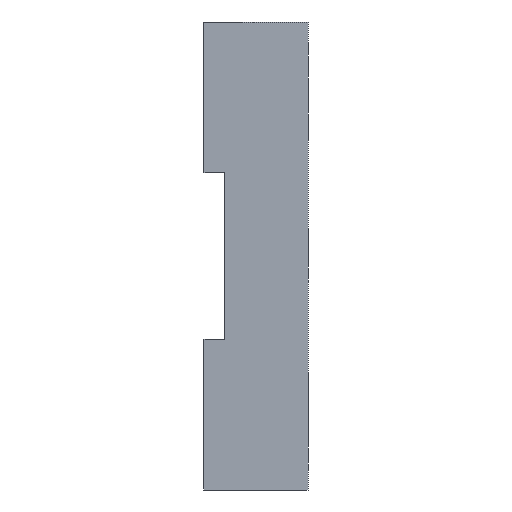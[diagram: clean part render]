
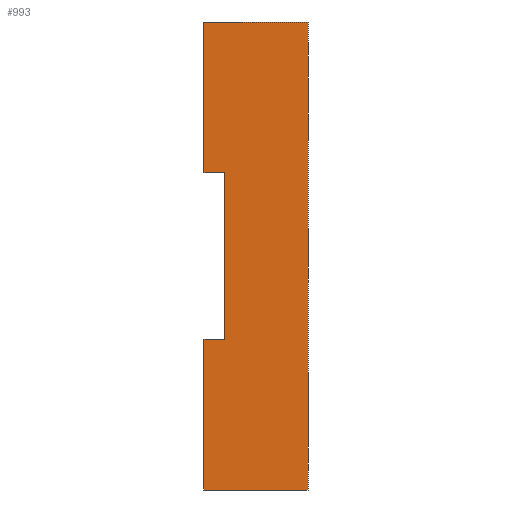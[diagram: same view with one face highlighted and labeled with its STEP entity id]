
A CAD part, left-side view. The second image highlights one B-rep face of the part: STEP entity #993.
In plain terms, the highlighted planar face has unit normal (-1, 0, 0).
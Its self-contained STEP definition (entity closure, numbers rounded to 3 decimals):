
#49 = AXIS2_PLACEMENT_3D ( 'NONE', #772, #777, #778 ) ;
#104 = LINE ( 'NONE', #1191, #105 ) ;
#105 = VECTOR ( 'NONE', #1192, 1000. ) ;
#180 = FACE_OUTER_BOUND ( 'NONE', #1337, .T. ) ;
#415 = VERTEX_POINT ( 'NONE', #1066 ) ;
#427 = EDGE_CURVE ( 'NONE', #854, #690, #1873, .T. ) ;
#432 = EDGE_CURVE ( 'NONE', #685, #690, #1885, .T. ) ;
#433 = EDGE_CURVE ( 'NONE', #859, #685, #1888, .T. ) ;
#434 = EDGE_CURVE ( 'NONE', #859, #1655, #1887, .T. ) ;
#435 = EDGE_CURVE ( 'NONE', #851, #415, #1892, .T. ) ;
#436 = EDGE_CURVE ( 'NONE', #852, #851, #1890, .T. ) ;
#437 = EDGE_CURVE ( 'NONE', #852, #854, #1894, .T. ) ;
#524 = EDGE_CURVE ( 'NONE', #415, #1655, #104, .T. ) ;
#685 = VERTEX_POINT ( 'NONE', #1217 ) ;
#690 = VERTEX_POINT ( 'NONE', #1228 ) ;
#711 = CARTESIAN_POINT ( 'NONE',  ( -32., 10., -8. ) ) ;
#712 = CARTESIAN_POINT ( 'NONE',  ( -32., 10., -22.5 ) ) ;
#713 = CARTESIAN_POINT ( 'NONE',  ( -32., 0., -22.5 ) ) ;
#717 = CARTESIAN_POINT ( 'NONE',  ( -32., 10., 8. ) ) ;
#772 = CARTESIAN_POINT ( 'NONE',  ( -32., 8., -22.5 ) ) ;
#774 = PLANE ( 'NONE',  #49 ) ;
#777 = DIRECTION ( 'NONE',  ( 1., 0., 0. ) ) ;
#778 = DIRECTION ( 'NONE',  ( 0., 0., -1. ) ) ;
#851 = VERTEX_POINT ( 'NONE', #711 ) ;
#852 = VERTEX_POINT ( 'NONE', #712 ) ;
#854 = VERTEX_POINT ( 'NONE', #713 ) ;
#859 = VERTEX_POINT ( 'NONE', #717 ) ;
#877 = CARTESIAN_POINT ( 'NONE',  ( -32., 8., 8. ) ) ;
#993 = ADVANCED_FACE ( 'NONE', ( #180 ), #774, .F. ) ;
#1066 = CARTESIAN_POINT ( 'NONE',  ( -32., 8., -8. ) ) ;
#1072 = DIRECTION ( 'NONE',  ( 0., 0., 1. ) ) ;
#1089 = CARTESIAN_POINT ( 'NONE',  ( -32., 0., -22.5 ) ) ;
#1097 = DIRECTION ( 'NONE',  ( 0., -1., 0. ) ) ;
#1098 = CARTESIAN_POINT ( 'NONE',  ( -32., 10., -22.5 ) ) ;
#1099 = CARTESIAN_POINT ( 'NONE',  ( -32., 10., 8. ) ) ;
#1100 = CARTESIAN_POINT ( 'NONE',  ( -32., 8., 22.5 ) ) ;
#1104 = CARTESIAN_POINT ( 'NONE',  ( -32., 10., 22.5 ) ) ;
#1105 = CARTESIAN_POINT ( 'NONE',  ( -32., 8., -22.5 ) ) ;
#1106 = DIRECTION ( 'NONE',  ( 0., 0., 1. ) ) ;
#1107 = DIRECTION ( 'NONE',  ( 0., -1., 0. ) ) ;
#1108 = CARTESIAN_POINT ( 'NONE',  ( -32., 10., -8. ) ) ;
#1110 = DIRECTION ( 'NONE',  ( 0., -1., 0. ) ) ;
#1111 = DIRECTION ( 'NONE',  ( 0., 0., 1. ) ) ;
#1113 = DIRECTION ( 'NONE',  ( 0., -1., 0. ) ) ;
#1191 = CARTESIAN_POINT ( 'NONE',  ( -32., 8., -22.5 ) ) ;
#1192 = DIRECTION ( 'NONE',  ( 0., 0., 1. ) ) ;
#1217 = CARTESIAN_POINT ( 'NONE',  ( -32., 10., 22.5 ) ) ;
#1228 = CARTESIAN_POINT ( 'NONE',  ( -32., 0., 22.5 ) ) ;
#1337 = EDGE_LOOP ( 'NONE', ( #1535, #1366, #1514, #1773, #1756, #1379, #1493, #1430 ) ) ;
#1366 = ORIENTED_EDGE ( 'NONE', *, *, #432, .F. ) ;
#1379 = ORIENTED_EDGE ( 'NONE', *, *, #435, .F. ) ;
#1430 = ORIENTED_EDGE ( 'NONE', *, *, #437, .T. ) ;
#1493 = ORIENTED_EDGE ( 'NONE', *, *, #436, .F. ) ;
#1514 = ORIENTED_EDGE ( 'NONE', *, *, #433, .F. ) ;
#1535 = ORIENTED_EDGE ( 'NONE', *, *, #427, .T. ) ;
#1655 = VERTEX_POINT ( 'NONE', #877 ) ;
#1756 = ORIENTED_EDGE ( 'NONE', *, *, #524, .F. ) ;
#1773 = ORIENTED_EDGE ( 'NONE', *, *, #434, .T. ) ;
#1873 = LINE ( 'NONE', #1089, #1880 ) ;
#1880 = VECTOR ( 'NONE', #1072, 1000. ) ;
#1885 = LINE ( 'NONE', #1100, #1889 ) ;
#1887 = LINE ( 'NONE', #1099, #1893 ) ;
#1888 = LINE ( 'NONE', #1104, #1891 ) ;
#1889 = VECTOR ( 'NONE', #1097, 1000. ) ;
#1890 = LINE ( 'NONE', #1098, #1897 ) ;
#1891 = VECTOR ( 'NONE', #1106, 1000. ) ;
#1892 = LINE ( 'NONE', #1108, #1895 ) ;
#1893 = VECTOR ( 'NONE', #1107, 1000. ) ;
#1894 = LINE ( 'NONE', #1105, #1899 ) ;
#1895 = VECTOR ( 'NONE', #1110, 1000. ) ;
#1897 = VECTOR ( 'NONE', #1111, 1000. ) ;
#1899 = VECTOR ( 'NONE', #1113, 1000. ) ;
